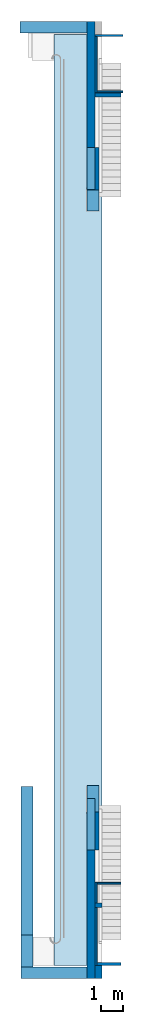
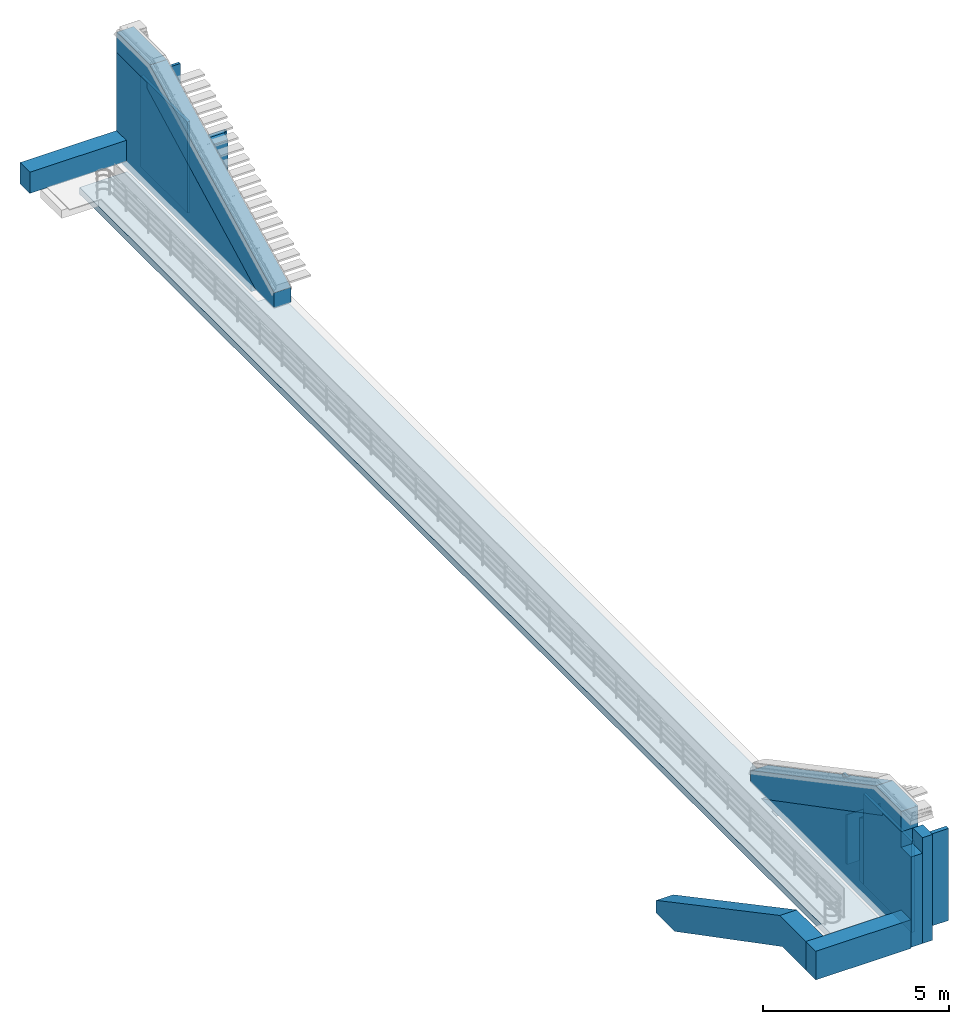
# One storey, part 1 of 5: 17 walls, 1 slab, 7 openings, 1 element without a shape of its own.
"""IFC2X3 building model written with IfcOpenShell, lengths in millimetres."""

from ifc_helpers import new_model, entity, si_unit, converted_unit, derived_unit, direction, frame, frame_2d, origin, place, context, subcontext, project, spatial, polyline, rectangle, outline, extrude, clip, halfspace, bounded_halfspace, faceted_brep, material, layer, layer_set, layer_usage, type_object, element, aggregate, save


model = new_model("IFC2X3")

# Units and contexts
model_context = context("Model", 3, precision=0.01, world=origin(), true_north=direction((6.123031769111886e-17, 1.0)))
body_context = subcontext(model_context, "Body", "Model", "MODEL_VIEW")
ifc_project = project(units=[si_unit("LENGTHUNIT", "METRE", prefix="MILLI"), si_unit("AREAUNIT", "SQUARE_METRE"), si_unit("VOLUMEUNIT", "CUBIC_METRE"), converted_unit("PLANEANGLEUNIT", "DEGREE", entity("IfcPlaneAngleMeasure", 0.017453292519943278), si_unit("PLANEANGLEUNIT", "RADIAN"), dimensions=[0, 0, 0, 0, 0, 0, 0]), si_unit("MASSUNIT", "GRAM", prefix="KILO"), derived_unit("MASSDENSITYUNIT", [(si_unit("MASSUNIT", "GRAM", prefix="KILO"), 1), (si_unit("LENGTHUNIT", "METRE"), -3)]), derived_unit("IONCONCENTRATIONUNIT", [(si_unit("MASSUNIT", "GRAM", prefix="KILO"), 1), (si_unit("LENGTHUNIT", "METRE"), -3)]), derived_unit("MOMENTOFINERTIAUNIT", [(si_unit("LENGTHUNIT", "METRE"), 4)]), si_unit("TIMEUNIT", "SECOND"), si_unit("FREQUENCYUNIT", "HERTZ"), si_unit("THERMODYNAMICTEMPERATUREUNIT", "DEGREE_CELSIUS"), derived_unit("THERMALTRANSMITTANCEUNIT", [(si_unit("MASSUNIT", "GRAM", prefix="KILO"), 1), (si_unit("THERMODYNAMICTEMPERATUREUNIT", "KELVIN"), -1), (si_unit("TIMEUNIT", "SECOND"), -3)]), derived_unit("THERMALCONDUCTANCEUNIT", [(si_unit("MASSUNIT", "GRAM", prefix="KILO"), 1), (si_unit("THERMODYNAMICTEMPERATUREUNIT", "KELVIN"), -1), (si_unit("TIMEUNIT", "SECOND"), -3), (si_unit("LENGTHUNIT", "METRE"), 1)]), derived_unit("VOLUMETRICFLOWRATEUNIT", [(si_unit("LENGTHUNIT", "METRE", prefix="DECI"), 3), (si_unit("TIMEUNIT", "SECOND"), -1)]), derived_unit("MASSFLOWRATEUNIT", [(si_unit("MASSUNIT", "GRAM", prefix="KILO"), 1), (si_unit("TIMEUNIT", "SECOND"), -1)]), derived_unit("ROTATIONALFREQUENCYUNIT", [(si_unit("TIMEUNIT", "SECOND"), -1)]), si_unit("ELECTRICCURRENTUNIT", "AMPERE"), si_unit("ELECTRICVOLTAGEUNIT", "VOLT"), si_unit("POWERUNIT", "WATT"), si_unit("FORCEUNIT", "NEWTON", prefix="KILO"), si_unit("ILLUMINANCEUNIT", "LUX"), si_unit("LUMINOUSFLUXUNIT", "LUMEN"), si_unit("LUMINOUSINTENSITYUNIT", "CANDELA"), si_unit("ENERGYUNIT", "JOULE"), derived_unit("USERDEFINED", [(si_unit("MASSUNIT", "GRAM", prefix="KILO"), -1), (si_unit("LENGTHUNIT", "METRE"), -2), (si_unit("TIMEUNIT", "SECOND"), 3), (si_unit("LUMINOUSFLUXUNIT", "LUMEN"), 1)]), derived_unit("USERDEFINED", [(si_unit("MASSUNIT", "GRAM", prefix="KILO"), 1), (si_unit("TIMEUNIT", "SECOND"), -3), (si_unit("LENGTHUNIT", "METRE"), 3), (si_unit("ELECTRICCURRENTUNIT", "AMPERE"), -2)]), derived_unit("SOUNDPOWERUNIT", [(si_unit("MASSUNIT", "GRAM", prefix="KILO"), 1), (si_unit("TIMEUNIT", "SECOND"), -3), (si_unit("LENGTHUNIT", "METRE"), 2)]), derived_unit("SOUNDPRESSUREUNIT", [(si_unit("MASSUNIT", "GRAM", prefix="KILO"), 1), (si_unit("LENGTHUNIT", "METRE"), -1), (si_unit("TIMEUNIT", "SECOND"), -2)]), derived_unit("LINEARVELOCITYUNIT", [(si_unit("LENGTHUNIT", "METRE"), 1), (si_unit("TIMEUNIT", "SECOND"), -1)]), si_unit("PRESSUREUNIT", "PASCAL"), derived_unit("USERDEFINED", [(si_unit("MASSUNIT", "GRAM", prefix="KILO"), 1), (si_unit("LENGTHUNIT", "METRE"), -2), (si_unit("TIMEUNIT", "SECOND"), -2)]), derived_unit("LINEARFORCEUNIT", [(si_unit("MASSUNIT", "GRAM", prefix="KILO"), 1), (si_unit("TIMEUNIT", "SECOND"), -2)]), derived_unit("PLANARFORCEUNIT", [(si_unit("MASSUNIT", "GRAM", prefix="KILO"), 1), (si_unit("LENGTHUNIT", "METRE"), -1), (si_unit("TIMEUNIT", "SECOND"), -2)]), derived_unit("SPECIFICHEATCAPACITYUNIT", [(si_unit("THERMODYNAMICTEMPERATUREUNIT", "KELVIN"), -1), (si_unit("LENGTHUNIT", "METRE"), 2), (si_unit("TIMEUNIT", "SECOND"), -2)]), derived_unit("HEATFLUXDENSITYUNIT", [(si_unit("MASSUNIT", "GRAM", prefix="KILO"), 1), (si_unit("TIMEUNIT", "SECOND"), -3)]), derived_unit("HEATINGVALUEUNIT", [(si_unit("LENGTHUNIT", "METRE"), 2), (si_unit("TIMEUNIT", "SECOND"), -2)]), derived_unit("VAPORPERMEABILITYUNIT", [(si_unit("LENGTHUNIT", "METRE"), -1), (si_unit("TIMEUNIT", "SECOND"), 1)]), derived_unit("DYNAMICVISCOSITYUNIT", [(si_unit("MASSUNIT", "GRAM", prefix="KILO"), 1), (si_unit("TIMEUNIT", "SECOND"), -1), (si_unit("LENGTHUNIT", "METRE"), -1)]), derived_unit("THERMALEXPANSIONCOEFFICIENTUNIT", [(si_unit("THERMODYNAMICTEMPERATUREUNIT", "KELVIN"), -1)]), derived_unit("MODULUSOFELASTICITYUNIT", [(si_unit("MASSUNIT", "GRAM", prefix="KILO"), 1), (si_unit("LENGTHUNIT", "METRE"), -1), (si_unit("TIMEUNIT", "SECOND"), -2)]), derived_unit("ISOTHERMALMOISTURECAPACITYUNIT", [(si_unit("MASSUNIT", "GRAM", prefix="KILO"), -1), (si_unit("LENGTHUNIT", "METRE"), 3)]), derived_unit("MOISTUREDIFFUSIVITYUNIT", [(si_unit("TIMEUNIT", "SECOND"), -1), (si_unit("LENGTHUNIT", "METRE"), 2)]), derived_unit("MASSPERLENGTHUNIT", [(si_unit("MASSUNIT", "GRAM", prefix="KILO"), 1), (si_unit("LENGTHUNIT", "METRE"), -1)]), derived_unit("THERMALRESISTANCEUNIT", [(si_unit("MASSUNIT", "GRAM", prefix="KILO"), -1), (si_unit("TIMEUNIT", "SECOND"), 3), (si_unit("THERMODYNAMICTEMPERATUREUNIT", "KELVIN"), 1)]), derived_unit("ACCELERATIONUNIT", [(si_unit("LENGTHUNIT", "METRE"), 1), (si_unit("TIMEUNIT", "SECOND"), -2)]), derived_unit("ANGULARVELOCITYUNIT", [(si_unit("TIMEUNIT", "SECOND"), -1), (si_unit("PLANEANGLEUNIT", "RADIAN"), 1)]), derived_unit("LINEARSTIFFNESSUNIT", [(si_unit("MASSUNIT", "GRAM", prefix="KILO"), 1), (si_unit("TIMEUNIT", "SECOND"), -2)]), derived_unit("WARPINGCONSTANTUNIT", [(si_unit("LENGTHUNIT", "METRE"), 6)]), derived_unit("LINEARMOMENTUNIT", [(si_unit("MASSUNIT", "GRAM", prefix="KILO"), 1), (si_unit("LENGTHUNIT", "METRE"), 1), (si_unit("TIMEUNIT", "SECOND"), -2)]), derived_unit("TORQUEUNIT", [(si_unit("MASSUNIT", "GRAM", prefix="KILO"), 1), (si_unit("LENGTHUNIT", "METRE"), 2), (si_unit("TIMEUNIT", "SECOND"), -2)])], contexts=[model_context])

# Site, building, storey
site_placement = place(None, origin())
site = spatial("IfcSite", under=ifc_project, at=site_placement, Name="Default", CompositionType="ELEMENT")
building_placement = place(site_placement, origin())
building = spatial("IfcBuilding", under=site, at=building_placement, Name="Eesti Rahvusraamatukogu hoone renoveerimise projekteerimistööd", CompositionType="ELEMENT")
storey_placement = place(building_placement, frame((0.0, 0.0, 11550.000000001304)))
storey = spatial("IfcBuildingStorey", under=building, at=storey_placement, Name="4. korrus", CompositionType="ELEMENT", Elevation=11550.000000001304)

# Roof, slab
ifc_material_1 = material(Name="ol. olev materjal")
ifc_layer_1 = layer(ifc_material_1, 220.0)
ifc_layer_set_1 = layer_set([ifc_layer_1], Name="Basic Roof:ol. olev - 220mm")
roof_placement = place(storey_placement, frame((-33770.0, 6590.0, -300.0)))
roof = element("IfcRoof", 1, at=roof_placement, inside=storey, material=ifc_layer_set_1, Name="Basic Roof:ol. olev - 220mm", ObjectType="Basic Roof:ol. olev - 220mm", ShapeType="NOTDEFINED")
slab_type = type_object("IfcSlabType", Name="Basic Roof:ol. olev - 220mm", PredefinedType="ROOF")
slab_placement = place(storey_placement, frame((-33770.0, 6590.0, -300.0)))
slab = element("IfcSlab", 2, at=slab_placement, type_object=slab_type, Name="Basic Roof:ol. olev - 220mm:1", ObjectType="Basic Roof:ol. olev - 220mm", PredefinedType="ROOF", context=body_context, shape_type="SweptSolid", body=[
    extrude(outline(polyline([(-17823.52904034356, -1326.0363137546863), (23776.47095965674, -1326.0363137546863), (23776.470959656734, 163.96368624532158), (16861.47095965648, 163.9636862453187), (16861.470959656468, 834.1452550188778), (-10790.883838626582, 834.1452550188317), (-10790.883838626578, 163.963686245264), (-11741.789909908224, 163.96368624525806), (-12305.2681707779, 163.96368624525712), (-17823.52904034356, 163.9636862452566), (-17823.52904034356, -1326.0363137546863)])), frame((1326.0363137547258, 23776.470959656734, 0.0), z_axis=(0.0, 0.0, 1.0), x_axis=(0.0, -1.0, 0.0)), (0.0, 0.0, 1.0), 219.9999999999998),
])
aggregate(roof, [slab])

# Walls
ifc_layer_2 = layer(ifc_material_1, 590.0)
ifc_layer_set_2 = layer_set([ifc_layer_2], Name="Basic Wall:ol. olev - 590mm")
wall_type_1 = type_object("IfcWallType", Name="Basic Wall:ol. olev - 590mm", PredefinedType="STANDARD", material=ifc_layer_set_2)
wall_1_placement = place(storey_placement, frame((-29171.11760282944, 6295.0, 0.0), z_axis=(0.0, 0.0, 1.0), x_axis=(-1.0, 0.0, 0.0)))
element("IfcWall", 3, at=wall_1_placement, inside=storey, type_object=wall_type_1, Name="Basic Wall:ol. olev - 590mm", ObjectType="Basic Wall:ol. olev - 590mm", context=body_context, shape_type="Brep", body=[
    faceted_brep([(2438.7008283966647, -295.0, 0.0), (2748.88239717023, -295.0, 0.0), (2748.88239717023, -295.0, 3480.0), (2578.88239717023, -295.0, 3480.0), (2578.88239717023, -295.0, 3247.5073234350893), (2578.88239717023, -295.0, 3220.0), (2438.7008283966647, -295.0, 3220.0), (2748.882397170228, 295.0, 0.0), (2438.700828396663, 295.0, 0.0), (2438.700828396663, 295.0, 3480.0), (2748.882397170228, 295.0, 3480.0), (2748.882397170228, 295.0, 2970.0), (2438.7008283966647, -235.0, 3480.0), (2578.88239717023, -235.0, 3480.0), (2748.88239717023, -235.0, 3480.0), (2578.88239717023, -235.0, 3220.0), (2438.7008283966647, -235.0, 3220.0), (2438.7008283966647, -235.0, 3439.9597481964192)], [[[0, 1, 2, 3, 4, 5, 6]], [[7, 8, 9, 10, 11]], [[1, 0, 8, 7]], [[10, 9, 12, 13, 3, 2, 14]], [[1, 7, 11, 10, 14, 2]], [[15, 16, 6, 5]], [[15, 5, 4, 3, 13]], [[16, 15, 13, 12, 17]], [[0, 6, 16, 17, 12, 9, 8]]]),
])
ifc_layer_3 = layer(ifc_material_1, 200.0)
ifc_layer_set_3 = layer_set([ifc_layer_3], Name="Basic Wall:ol. olev - 200mm")
wall_type_2 = type_object("IfcWallType", Name="Basic Wall:ol. olev - 200mm", PredefinedType="STANDARD", material=ifc_layer_set_3)
wall_2_placement = place(storey_placement, frame((-31920.0, 9290.0, 0.0)))
element("IfcWall", 4, at=wall_2_placement, inside=storey, type_object=wall_type_2, Name="Basic Wall:ol. olev - 200mm", ObjectType="Basic Wall:ol. olev - 200mm", context=body_context, shape_type="Brep", body=[
    faceted_brep([(0.0, -100.0, 2186.644983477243), (0.0, -100.0, 0.0), (310.1815687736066, -100.0, 0.0), (310.1815687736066, -100.0, 2186.644983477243), (0.0, 100.0, 0.0), (0.0, 100.0, 2081.5924117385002), (310.18156877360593, 100.0, 2081.5924117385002), (310.18156877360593, 100.0, 0.0)], [[[0, 1, 2, 3]], [[4, 5, 6, 7]], [[1, 4, 7, 2]], [[1, 0, 5, 4]], [[0, 3, 6, 5]], [[3, 2, 7, 6]]]),
])
ifc_layer_usage_1 = layer_usage(ifc_layer_set_3, "AXIS2", "NEGATIVE", 100.0)
wall_3_placement = place(storey_placement, frame((-31920.0, 45490.0, 0.0)))
element("IfcWallStandardCase", 5, at=wall_3_placement, inside=storey, type_object=wall_type_2, material=ifc_layer_usage_1, Name="Basic Wall:ol. olev - 200mm", ObjectType="Basic Wall:ol. olev - 200mm", context=body_context, shape_type="Clipping", body=[
    clip(extrude(rectangle(XDim=1150.0000000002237, YDim=200.0000000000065, at=frame_2d((575.0000000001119, 0.0), x_axis=(-1.0, 0.0))), origin(), (0.0, 0.0, 1.0), 2243.9377828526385), bounded_halfspace(frame((0.0, -100.0, 2139.1243701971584), z_axis=(0.0, 0.4641859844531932, -0.8857377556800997), x_axis=(-1.0, 0.0, 0.0)), True, frame((0.0, -100.0, 2139.1243701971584)), polyline([(0.0, 0.0), (1150.0, 0.0), (1150.0, 200.0), (0.0, 200.0), (0.0, 0.0)]))),
])

# Wall, opening
ifc_layer_4 = layer(ifc_material_1, 360.0)
ifc_layer_set_4 = layer_set([ifc_layer_4], Name="Basic Wall:ol. olev - 360mm")
ifc_layer_usage_2 = layer_usage(ifc_layer_set_4, "AXIS2", "NEGATIVE", 180.0)
wall_type_3 = type_object("IfcWallType", Name="Basic Wall:ol. olev - 360mm", PredefinedType="STANDARD", material=ifc_layer_set_4)
wall_4_placement = place(storey_placement, frame((-32100.0, 6000.0, 0.0), z_axis=(0.0, 0.0, 1.0), x_axis=(0.0, 1.0, 0.0)))
wall_4 = element("IfcWallStandardCase", 6, at=wall_4_placement, inside=storey, type_object=wall_type_3, material=ifc_layer_usage_2, Name="Basic Wall:ol. olev - 360mm", ObjectType="Basic Wall:ol. olev - 360mm", context=body_context, shape_type="Clipping", body=[
    clip(clip(clip(extrude(rectangle(XDim=8057.461172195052, YDim=359.99999999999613, at=frame_2d((4028.730586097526, 2.842170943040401e-14), x_axis=(-1.0, 0.0))), origin(), (0.0, 0.0, 1.0), 3480.000000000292), bounded_halfspace(frame((530.0, 180.0, 2970.0), z_axis=(1.0, 0.0, 0.0), x_axis=(0.0, 1.0, 0.0)), True, frame((530.0, 180.0, 2970.0), z_axis=(1.0, 0.0, 0.0), x_axis=(0.0, 1.0, 0.0)), polyline([(0.0, 0.0), (0.0, 510.0), (-360.0, 510.0), (-360.0, 0.0), (0.0, 0.0)]))), bounded_halfspace(frame((530.0, -180.0, 2970.0), z_axis=(0.0, 0.0, -1.0), x_axis=(1.0, 0.0, 0.0)), True, frame((530.0, -180.0, 2970.0), z_axis=(0.0, 0.0, -1.0), x_axis=(1.0, 0.0, 0.0)), polyline([(0.0, 0.0), (-530.0, 0.0), (-530.0, -360.0), (0.0, -360.0), (0.0, 0.0)]))), halfspace(frame((8057.461172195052, 0.0, 0.0), z_axis=(0.469945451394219, 0.0, 0.8826954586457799), x_axis=(0.0, 1.0, 0.0)), False)),
])
opening_1_placement = place(wall_4_placement, origin())
element("IfcOpeningElement", 7, at=opening_1_placement, cuts=wall_4, Name="Basic Wall:ol. olev - 360mm", ObjectType="Opening", context=body_context, shape_type="SweptSolid", body=[
    extrude(outline(polyline([(-4926.125064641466, -19.943927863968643), (2478.9896985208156, -19.9439278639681), (2447.135366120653, 39.88785572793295), (-4926.125064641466, -19.943927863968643)])), frame((3699.8203907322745, 180.0, 2297.4056525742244), z_axis=(0.0, -1.0, 0.0), x_axis=(-0.8826954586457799, 0.0, 0.469945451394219)), (0.0, 0.0, 1.0), 360.0),
])

# Wall, openings
ifc_layer_usage_3 = layer_usage(ifc_layer_set_4, "AXIS2", "NEGATIVE", 180.0)
wall_5_placement = place(storey_placement, frame((-32100.0, 41254.81214147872, 0.0), z_axis=(0.0, 0.0, 1.0), x_axis=(0.0, 1.0, 0.0)))
wall_5 = element("IfcWallStandardCase", 8, at=wall_5_placement, inside=storey, type_object=wall_type_3, material=ifc_layer_usage_3, Name="Basic Wall:ol. olev - 360mm", ObjectType="Basic Wall:ol. olev - 360mm", context=body_context, shape_type="Clipping", body=[
    clip(clip(extrude(rectangle(XDim=7525.187858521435, YDim=359.99999999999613, at=frame_2d((3762.5939292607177, -2.5579538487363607e-13), x_axis=(-1.0, 0.0))), origin(), (0.0, 0.0, 1.0), 3479.999999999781), halfspace(frame((0.0, 0.0, 210.0), z_axis=(-0.6066518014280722, 0.0, -0.7949676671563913), x_axis=(0.0, 1.0, 0.0)), False)), halfspace(frame((5883.187858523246, 0.0, 3480.0), z_axis=(-0.48582028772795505, 0.0, 0.8740587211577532), x_axis=(0.0, 1.0, 0.0)), False)),
])
opening_2_placement = place(wall_5_placement, origin())
element("IfcOpeningElement", 9, at=opening_2_placement, cuts=wall_5, Name="Basic Wall:ol. olev - 360mm", ObjectType="Opening", context=body_context, shape_type="SweptSolid", body=[
    extrude(outline(polyline([(-2273.8808405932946, 54.42909807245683), (-2183.12231563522, -108.85819614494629), (4457.003156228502, 54.429098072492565), (-2273.8808405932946, 54.42909807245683)])), frame((3922.1252390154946, 180.0, 2327.72832790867), z_axis=(0.0, 1.0, 0.0), x_axis=(-0.8740587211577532, 0.0, -0.48582028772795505)), (0.0, 0.0, -1.0), 360.0),
])
opening_3_placement = place(wall_5_placement, origin())
element("IfcOpeningElement", 10, at=opening_3_placement, cuts=wall_5, Name="Basic Wall:ol. olev - 360mm", ObjectType="Opening", context=body_context, shape_type="SweptSolid", body=[
    extrude(outline(polyline([(-188.3092593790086, -55.64773670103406), (157.85306883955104, -55.64773670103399), (30.456190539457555, 111.29547340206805), (-188.3092593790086, -55.64773670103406)])), frame((183.4585723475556, 180.0, 140.0), z_axis=(0.0, -1.0, 0.0), x_axis=(0.7949676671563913, 0.0, -0.6066518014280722)), (0.0, 0.0, 1.0), 360.0),
])

# Wall
ifc_layer_5 = layer(ifc_material_1, 530.0)
ifc_layer_set_5 = layer_set([ifc_layer_5], Name="Basic Wall:ol. olev - 530mm")
ifc_layer_usage_4 = layer_usage(ifc_layer_set_5, "AXIS2", "NEGATIVE", 265.0)
wall_type_4 = type_object("IfcWallType", Name="Basic Wall:ol. olev - 530mm", PredefinedType="STANDARD", material=ifc_layer_set_5)
wall_6_placement = place(storey_placement, frame((-35280.0, 48515.0, 210.0)))
element("IfcWallStandardCase", 11, at=wall_6_placement, inside=storey, type_object=wall_type_4, material=ifc_layer_usage_4, Name="Basic Wall:ol. olev - 530mm", ObjectType="Basic Wall:ol. olev - 530mm", context=body_context, shape_type="SweptSolid", body=[
    extrude(rectangle(XDim=2999.9999999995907, YDim=530.0000000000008, at=frame_2d((1499.9999999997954, 0.0), x_axis=(-1.0, 0.0))), origin(), (0.0, 0.0, 1.0), 697.5898015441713),
])

# Wall, opening
ifc_layer_usage_5 = layer_usage(ifc_layer_set_5, "AXIS2", "NEGATIVE", 265.0)
wall_7_placement = place(storey_placement, frame((-32015.0, 48780.0, 210.0), z_axis=(0.0, 0.0, 1.0), x_axis=(0.0, -1.0, 0.0)))
wall_7 = element("IfcWallStandardCase", 12, at=wall_7_placement, inside=storey, type_object=wall_type_4, material=ifc_layer_usage_5, Name="Basic Wall:ol. olev - 530mm", ObjectType="Basic Wall:ol. olev - 530mm", context=body_context, shape_type="Clipping", body=[
    clip(clip(extrude(rectangle(XDim=8479.645035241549, YDim=530.0000000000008, at=frame_2d((4239.822517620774, -1.3073986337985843e-12), x_axis=(-1.0, 0.0))), origin(), (0.0, 0.0, 1.0), 3935.6179560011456), halfspace(frame((1791.3446471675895, -265.0, 3935.6179560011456), z_axis=(0.45660854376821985, 0.0, 0.8896677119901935), x_axis=(0.0, 1.0, 0.0)), False)), halfspace(frame((8479.645035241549, -265.0, 0.0), z_axis=(0.0, 0.0, -1.0), x_axis=(0.0, 1.0, 0.0)), False)),
])
opening_4_placement = place(wall_7_placement, origin())
element("IfcOpeningElement", 13, at=opening_4_placement, cuts=wall_7, Name="Basic Wall:ol. olev - 530mm", ObjectType="Opening", context=body_context, shape_type="SweptSolid", body=[
    extrude(outline(polyline([(-1345.3630032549, -2161.8375717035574), (1924.6369967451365, -2161.8375717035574), (1924.6369967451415, 5363.350286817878), (-1158.5479869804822, -519.8375717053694), (-1345.3630032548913, -519.8375717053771), (-1345.3630032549, -2161.8375717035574)])), frame((2161.837571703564, 265.0, 1924.636996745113), z_axis=(0.0, -1.0, 0.0), x_axis=(0.0, 0.0, -1.0)), (0.0, 0.0, 1.0), 530.0),
])

ifc_layer_usage_6 = layer_usage(ifc_layer_set_5, "AXIS2", "NEGATIVE", 265.0)
wall_8_placement = place(storey_placement, frame((-32015.0, 14631.932437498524, 210.0), z_axis=(0.0, 0.0, 1.0), x_axis=(0.0, -1.0, 0.0)))
wall_8 = element("IfcWallStandardCase", 14, at=wall_8_placement, inside=storey, type_object=wall_type_4, material=ifc_layer_usage_6, Name="Basic Wall:ol. olev - 530mm", ObjectType="Basic Wall:ol. olev - 530mm", context=body_context, shape_type="Clipping", body=[
    clip(clip(extrude(rectangle(XDim=8101.9324374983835, YDim=530.0000000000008, at=frame_2d((4050.9662187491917, 1.1652900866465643e-12), x_axis=(-1.0, 0.0))), origin(), (0.0, 0.0, 1.0), 3938.222237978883), halfspace(frame((0.0, -265.0, 364.8926054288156), z_axis=(-0.4694715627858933, 0.0, 0.8829475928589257), x_axis=(0.0, 1.0, 0.0)), False)), halfspace(frame((976.7483957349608, -265.0, 0.0), z_axis=(0.0, 0.0, -1.0), x_axis=(0.0, 1.0, 0.0)), False)),
])
opening_5_placement = place(wall_8_placement, origin())
element("IfcOpeningElement", 15, at=opening_5_placement, cuts=wall_8, Name="Basic Wall:ol. olev - 530mm", ObjectType="Opening", context=body_context, shape_type="SweptSolid", body=[
    extrude(outline(polyline([(-5409.74723341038, -1948.4433915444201), (1980.4368083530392, -1948.4433915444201), (1980.4368083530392, 1321.5566084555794), (724.4368083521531, 1321.556608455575), (724.4368083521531, 1253.7735661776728), (-5409.74723341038, -1948.4433915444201)])), frame((6386.495629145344, 265.0, 1948.4433915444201), z_axis=(0.0, -1.0, 0.0), x_axis=(1.0, 0.0, 0.0)), (0.0, 0.0, 1.0), 530.0),
])

# Wall
ifc_layer_usage_7 = layer_usage(ifc_layer_set_5, "AXIS2", "NEGATIVE", 265.0)
wall_9_placement = place(storey_placement, frame((-35240.0, 6265.0, -33.478123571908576)))
element("IfcWallStandardCase", 16, at=wall_9_placement, inside=storey, type_object=wall_type_4, material=ifc_layer_usage_7, Name="Basic Wall:ol. olev - 530mm", ObjectType="Basic Wall:ol. olev - 530mm", context=body_context, shape_type="SweptSolid", body=[
    extrude(rectangle(XDim=2960.000000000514, YDim=530.0000000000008, at=frame_2d((1480.000000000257, -3.979039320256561e-13), x_axis=(-1.0, 0.0))), origin(), (0.0, 0.0, 1.0), 943.6589908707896),
])

# Wall, opening
ifc_layer_usage_8 = layer_usage(ifc_layer_set_5, "AXIS2", "POSITIVE", -265.0)
wall_10_placement = place(storey_placement, frame((-34975.0, 6530.0, -3040.0), z_axis=(0.0, 0.0, 1.0), x_axis=(0.0, 1.0, 0.0)))
wall_10 = element("IfcWallStandardCase", 17, at=wall_10_placement, inside=storey, type_object=wall_type_4, material=ifc_layer_usage_8, Name="Basic Wall:ol. olev - 530mm", ObjectType="Basic Wall:ol. olev - 530mm", context=body_context, shape_type="Clipping", body=[
    clip(extrude(rectangle(XDim=8064.999999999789, YDim=530.0000000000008, at=frame_2d((4032.4999999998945, -1.9895196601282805e-13), x_axis=(-1.0, 0.0))), origin(), (0.0, 0.0, 1.0), 3950.180867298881), halfspace(frame((1412.496055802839, -265.0, 3950.180867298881), z_axis=(0.46947156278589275, 0.0, 0.8829475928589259), x_axis=(0.0, 1.0, 0.0)), False)),
])
opening_6_placement = place(wall_10_placement, origin())
element("IfcOpeningElement", 18, at=opening_6_placement, cuts=wall_10, Name="Basic Wall:ol. olev - 530mm", ObjectType="Opening", context=body_context, shape_type="SweptSolid", body=[
    extrude(outline(polyline([(-5225.784488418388, -1023.0521281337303), (1290.9686109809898, -1023.0521281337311), (2660.941486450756, -310.66623288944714), (1273.8743909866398, 2356.7704891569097), (-5225.784488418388, -1023.0521281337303)])), frame((1952.505277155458, 265.0, 1503.2609382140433), z_axis=(0.0, -1.0, 0.0), x_axis=(-0.8872168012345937, 0.0, 0.4613527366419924)), (0.0, 0.0, 1.0), 529.9999999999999),
])

ifc_material_2 = material(Name="EST. Soojustus.PIR_Powerwall Pro")
ifc_layer_6 = layer(ifc_material_2, 30.0)
ifc_material_3 = material(Name="EST. Metall. Alumiinium. Mütsprofiil.")
ifc_layer_7 = layer(ifc_material_3, 42.0)
ifc_material_4 = material(Name="EST. Ehitusplaat. Kipsplaat")
ifc_layer_8 = layer(ifc_material_4, 12.5)
ifc_layer_set_6 = layer_set([ifc_layer_6, ifc_layer_7, ifc_layer_8], Name="Basic Wall:VS-03.1 - soojustus")
ifc_layer_usage_9 = layer_usage(ifc_layer_set_6, "AXIS2", "POSITIVE", -42.25000000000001)
wall_type_5 = type_object("IfcWallType", Name="Basic Wall:VS-03.1 - soojustus", PredefinedType="STANDARD", material=ifc_layer_set_6)
wall_11_placement = place(storey_placement, frame((-30680.0, 48147.750000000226, 0.0), z_axis=(0.0, 0.0, 1.0), x_axis=(-1.0, 0.0, 0.0)))
wall_11 = element("IfcWallStandardCase", 19, at=wall_11_placement, inside=storey, type_object=wall_type_5, material=ifc_layer_usage_9, Name="Basic Wall:VS-03.1 - soojustus", ObjectType="Basic Wall:VS-03.1 - soojustus", context=body_context, shape_type="SweptSolid", body=[
    extrude(rectangle(XDim=1240.0000000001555, YDim=84.50000000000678, at=frame_2d((620.0000000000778, 0.0), x_axis=(-1.0, 0.0))), origin(), (0.0, 0.0, 1.0), 2959.9999999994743),
])
opening_7_placement = place(wall_11_placement, frame((-30680.0, 48147.750000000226, 914.2208421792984)))
element("IfcOpeningElement", 20, at=opening_7_placement, cuts=wall_11, Name="Basic Wall:VS-03.1 - soojustus", ObjectType="Opening", context=body_context, shape_type="SweptSolid", body=[
    extrude(rectangle(XDim=899.999999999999, YDim=859.9999999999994, at=frame_2d((2.1600499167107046e-12, 0.0), x_axis=(0.0, 1.0))), frame((28851.174931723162, -49714.0, 450.0), z_axis=(0.0, 1.0, 0.0), x_axis=(-1.0, 0.0, 0.0)), (0.0, 0.0, 1.0), 3048.0),
])

# Walls
ifc_layer_usage_10 = layer_usage(ifc_layer_set_6, "AXIS2", "POSITIVE", -42.25000000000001)
wall_12_placement = place(storey_placement, frame((-31877.74999999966, 48105.50000000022, 0.0), z_axis=(0.0, 0.0, 1.0), x_axis=(0.0, -1.0, 0.0)))
element("IfcWallStandardCase", 21, at=wall_12_placement, inside=storey, type_object=wall_type_5, material=ifc_layer_usage_10, Name="Basic Wall:VS-03.1 - soojustus", ObjectType="Basic Wall:VS-03.1 - soojustus", context=body_context, shape_type="SweptSolid", body=[
    extrude(rectangle(XDim=2515.5000000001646, YDim=84.49999999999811, at=frame_2d((1257.7500000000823, 0.0), x_axis=(-1.0, 0.0))), origin(), (0.0, 0.0, 1.0), 3000.0000000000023),
])
ifc_layer_usage_11 = layer_usage(ifc_layer_set_6, "AXIS2", "POSITIVE", -42.25000000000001)
wall_13_placement = place(storey_placement, frame((-31835.49999999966, 45632.25000000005, 0.0)))
element("IfcWallStandardCase", 22, at=wall_13_placement, inside=storey, type_object=wall_type_5, material=ifc_layer_usage_11, Name="Basic Wall:VS-03.1 - soojustus", ObjectType="Basic Wall:VS-03.1 - soojustus", context=body_context, shape_type="Clipping", body=[
    clip(extrude(rectangle(XDim=1155.500000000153, YDim=84.50000000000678, at=frame_2d((577.7500000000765, 0.0), x_axis=(-1.0, 0.0))), origin(), (0.0, 0.0, 1.0), 2288.221449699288), bounded_halfspace(frame((0.0, -42.24999999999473, 2243.9377828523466), z_axis=(0.0, 0.4641859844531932, -0.8857377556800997), x_axis=(-1.0, 0.0, 0.0)), True, frame((0.0, -42.24999999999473, 2243.9377828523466)), polyline([(0.0, 0.0), (1095.5000000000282, 0.0), (1095.5000000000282, 84.49999999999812), (0.0, 84.49999999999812), (0.0, 0.0)]))),
])
ifc_layer_usage_12 = layer_usage(ifc_layer_set_6, "AXIS2", "NEGATIVE", 42.25000000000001)
wall_14_placement = place(storey_placement, frame((-31877.749999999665, 9390.0, 0.0), z_axis=(0.0, 0.0, 1.0), x_axis=(0.0, 1.0, 0.0)))
element("IfcWallStandardCase", 23, at=wall_14_placement, inside=storey, type_object=wall_type_5, material=ifc_layer_usage_12, Name="Basic Wall:VS-03.1 - soojustus", ObjectType="Basic Wall:VS-03.1 - soojustus", context=body_context, shape_type="SweptSolid", body=[
    extrude(rectangle(XDim=916.7728298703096, YDim=84.49999999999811, at=frame_2d((458.3864149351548, 0.0), x_axis=(-1.0, 0.0))), origin(), (0.0, 0.0, 1.0), 3000.0000000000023),
])
ifc_layer_usage_13 = layer_usage(ifc_layer_set_6, "AXIS2", "NEGATIVE", 42.25000000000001)
wall_15_placement = place(storey_placement, frame((-31835.499999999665, 10264.522829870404, 0.0)))
element("IfcWallStandardCase", 24, at=wall_15_placement, inside=storey, type_object=wall_type_5, material=ifc_layer_usage_13, Name="Basic Wall:VS-03.1 - soojustus", ObjectType="Basic Wall:VS-03.1 - soojustus", context=body_context, shape_type="Clipping", body=[
    clip(extrude(rectangle(XDim=1065.5000000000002, YDim=84.49999999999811, at=frame_2d((532.7500000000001, 0.0), x_axis=(-1.0, 0.0))), origin(), (0.0, 0.0, 1.0), 1644.4304059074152), bounded_halfspace(frame((0.0, -42.25000000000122, 1644.4304059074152), z_axis=(0.0, -0.4650163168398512, -0.8853021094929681), x_axis=(-1.0, 0.0, 0.0)), True, frame((0.0, -42.25000000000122, 1644.4304059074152)), polyline([(0.0, 0.0), (1065.5000000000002, 0.0), (1065.5000000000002, 84.50000000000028), (0.0, 84.50000000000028), (0.0, 0.0)]))),
])
ifc_layer_usage_14 = layer_usage(ifc_layer_set_6, "AXIS2", "POSITIVE", -42.25000000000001)
wall_16_placement = place(storey_placement, frame((-31877.74999999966, 9190.0, 0.0), z_axis=(0.0, 0.0, 1.0), x_axis=(0.0, -1.0, 0.0)))
element("IfcWallStandardCase", 25, at=wall_16_placement, inside=storey, type_object=wall_type_5, material=ifc_layer_usage_14, Name="Basic Wall:VS-03.1 - soojustus", ObjectType="Basic Wall:VS-03.1 - soojustus", context=body_context, shape_type="SweptSolid", body=[
    extrude(rectangle(XDim=2599.9999999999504, YDim=84.49999999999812, at=frame_2d((1299.9999999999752, 5.684341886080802e-14), x_axis=(-1.0, 0.0))), origin(), (0.0, 0.0, 1.0), 3000.0000000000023),
])
ifc_layer_9 = layer(ifc_material_4, 15.0)
ifc_material_5 = material(Name="EST. Ehitusplaat. OSB")
ifc_layer_10 = layer(ifc_material_5, 15.0)
ifc_material_6 = material(Name="EST. Õhkvahe. Roov. Kipsplaadi alusroov.Puit. Vertikaalne")
ifc_layer_11 = layer(ifc_material_6, 25.0)
ifc_material_7 = material(Name="EST. Soojustus.PIR. Default")
ifc_layer_12 = layer(ifc_material_7, 70.0)
ifc_layer_set_7 = layer_set([ifc_layer_9, ifc_layer_10, ifc_layer_11, ifc_layer_12], Name="Basic Wall:VS-02 - 125 sooj. läbiv")
ifc_layer_usage_15 = layer_usage(ifc_layer_set_7, "AXIS2", "NEGATIVE", 62.499999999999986)
wall_type_6 = type_object("IfcWallType", Name="Basic Wall:VS-02 - 125 sooj. läbiv", PredefinedType="STANDARD", material=ifc_layer_set_7)
wall_17_placement = place(storey_placement, frame((-31835.499999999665, 6652.500000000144, 0.0)))
element("IfcWallStandardCase", 26, at=wall_17_placement, inside=storey, type_object=wall_type_6, material=ifc_layer_usage_15, Name="Basic Wall:VS-02 - 125 sooj. läbiv", ObjectType="Basic Wall:VS-02 - 125 sooj. läbiv", context=body_context, shape_type="SweptSolid", body=[
    extrude(rectangle(XDim=1065.4999999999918, YDim=124.99999999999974, at=frame_2d((532.7499999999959, -1.5276668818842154e-13), x_axis=(-1.0, 0.0))), origin(), (0.0, 0.0, 1.0), 3027.5073234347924),
])

save(model, "model.ifc")
